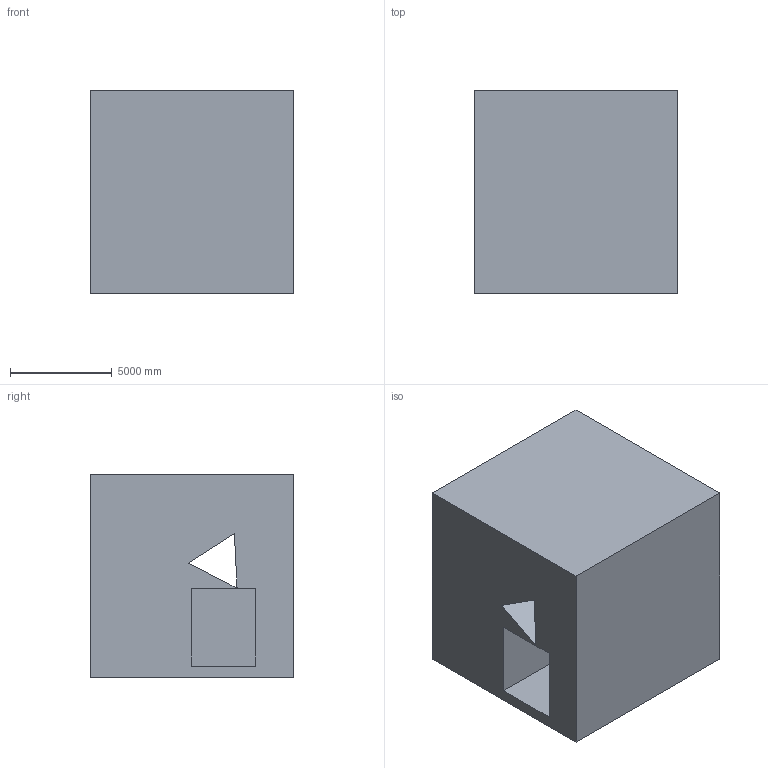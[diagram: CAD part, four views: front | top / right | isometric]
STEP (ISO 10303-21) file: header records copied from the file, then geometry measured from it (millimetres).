
FILE_DESCRIPTION (( 'STEP AP203' ), '1' );
FILE_NAME ('1211.STEP', '2022-08-18T13:12:27', ( 'user' ), ( '' ), 'SwSTEP 2.0', 'SolidWorks 2021', '' );
FILE_SCHEMA (( 'CONFIG_CONTROL_DESIGN' ));
Length unit declared in the file: centimetre
Products named in the file (1): 1211
Bounding box: 10000 x 10000 x 10000 mm (x, y, z)
Volume: 849141955471.4 mm3; surface area: 827504602.4 mm2
Topology: 1 solids, 1 shells, 21 faces, 51 edges, 34 vertices
Faces by surface type: plane 21
Entity records: 686 total; most frequent: CARTESIAN_POINT 107, ORIENTED_EDGE 102, DIRECTION 95, EDGE_CURVE 51, VECTOR 51, LINE 51, VERTEX_POINT 34, EDGE_LOOP 25
